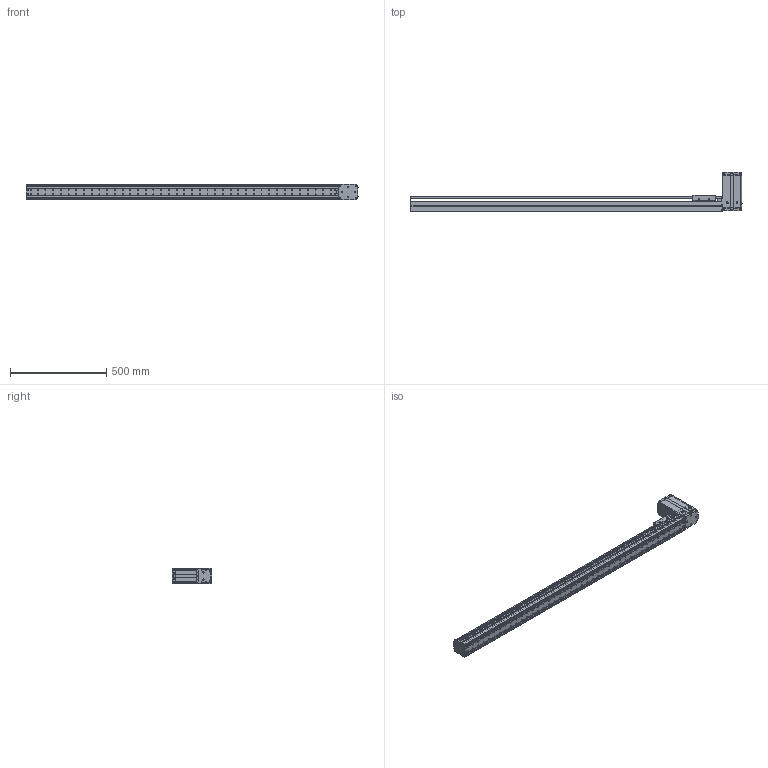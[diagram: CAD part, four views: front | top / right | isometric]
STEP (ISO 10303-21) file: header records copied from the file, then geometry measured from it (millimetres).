
FILE_DESCRIPTION((''),'2;1');
FILE_NAME('BE10_-BT-M_N-E0_IGS_PRT','2017-06-18T',(' '),(''),'PRO/ENGINEER BY PARAMETRIC TECHNOLOGY CORPORATION, 2015030','PRO/ENGINEER BY PARAMETRIC TECHNOLOGY CORPORATION, 2015030','');
FILE_SCHEMA(('CONFIG_CONTROL_DESIGN'));
Products named in the file (1): BE10_-BT-M_N-E0_IGS_PRT
Bounding box: 1720.8 x 204.72 x 78 mm (x, y, z)
Volume: 2401204.5 mm3; surface area: 1623082.2 mm2
Topology: 2 solids, 167 shells, 2288 faces, 6255 edges, 4145 vertices
Faces by surface type: plane 1070, cylinder 1055, cone 107, sphere 28, torus 25, bspline 3
Entity records: 74731 total; most frequent: CARTESIAN_POINT 15338, DIRECTION 12637, ORIENTED_EDGE 11798, EDGE_CURVE 6193, AXIS2_PLACEMENT_3D 4599, VERTEX_POINT 4145, VECTOR 3439, LINE 3439
